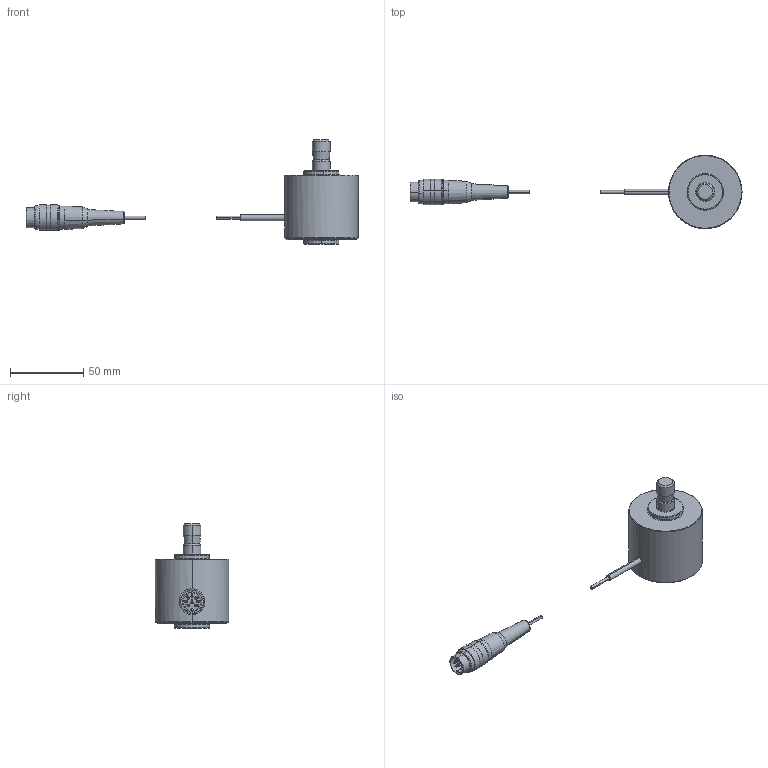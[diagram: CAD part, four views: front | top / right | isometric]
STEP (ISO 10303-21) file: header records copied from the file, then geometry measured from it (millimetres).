
FILE_DESCRIPTION(('STEP AP203'),'1');
FILE_NAME('C:/TPO v2/SharedFS/Outgoing/burster_8552-5500-v1220_db5wvxio52nfh5ch3jbuy5c85.stp','2013-08-27T17:35:16',('TraceParts'),('TraceParts S.A.'),'XStep 1.0',' ',' ');
FILE_SCHEMA(('CONFIG_CONTROL_DESIGN'));
Length unit declared in the file: millimetre
Products named in the file (3): 1; 2; 3
Bounding box: 225.89 x 50 x 71 mm (x, y, z)
Volume: 96949.3 mm3; surface area: 29677.2 mm2
Topology: 3 solids, 6 shells, 346 faces, 919 edges, 623 vertices
Faces by surface type: plane 115, bspline 84, cylinder 81, cone 50, torus 14, sphere 2
Entity records: 14849 total; most frequent: CARTESIAN_POINT 6422, ORIENTED_EDGE 1838, DIRECTION 1546, EDGE_CURVE 919, VERTEX_POINT 623, AXIS2_PLACEMENT_3D 573, LINE 400, VECTOR 400
